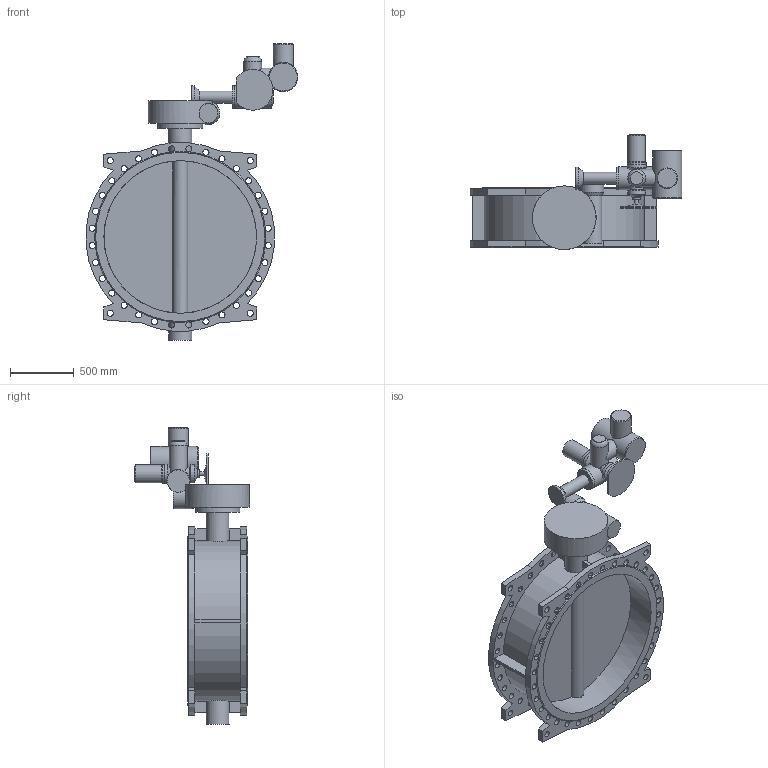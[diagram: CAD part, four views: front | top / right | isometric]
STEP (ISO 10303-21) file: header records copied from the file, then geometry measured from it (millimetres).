
FILE_DESCRIPTION(('STEP AP203'), '1');
FILE_NAME('Çàòâîð 021F.Y DN1200 +ðåäóêòîð+ÌÒ903.À30-67 ñ ÁÓ', '', ('UNSPECIFIED'), ('UNSPECIFIED'), 'ASCON STEP Converter 1.6', 'ASCON Math Kernel', '');
FILE_SCHEMA(('CONFIG_CONTROL_DESIGN'));
Length unit declared in the file: millimetre
Bounding box: 1663.7 x 904 x 2330 mm (x, y, z)
Volume: 238797664.5 mm3; surface area: 11298080 mm2
Topology: 1 solids, 1 shells, 442 faces, 1380 edges, 915 vertices
Faces by surface type: plane 225, cylinder 201, cone 15, torus 1
Full cylindrical faces by diameter (mm): 14 x4, 17.5 x8, 18 x4, 22 x8, 32 x1, 48 x8, 60 x1, 95 x1, 100 x1, 140 x4, 147 x1, 151 x1, 160 x1, 175 x2, 180 x4, 230 x1, 350 x1, 500 x1, 1200 x2
Entity records: 23842 total; most frequent: CARTESIAN_POINT 7672, DIRECTION 2638, ORIENTED_EDGE 2624, EDGE_CURVE 1312, AXIS2_PLACEMENT_3D 986, VERTEX_POINT 915, LINE 666, VECTOR 666
